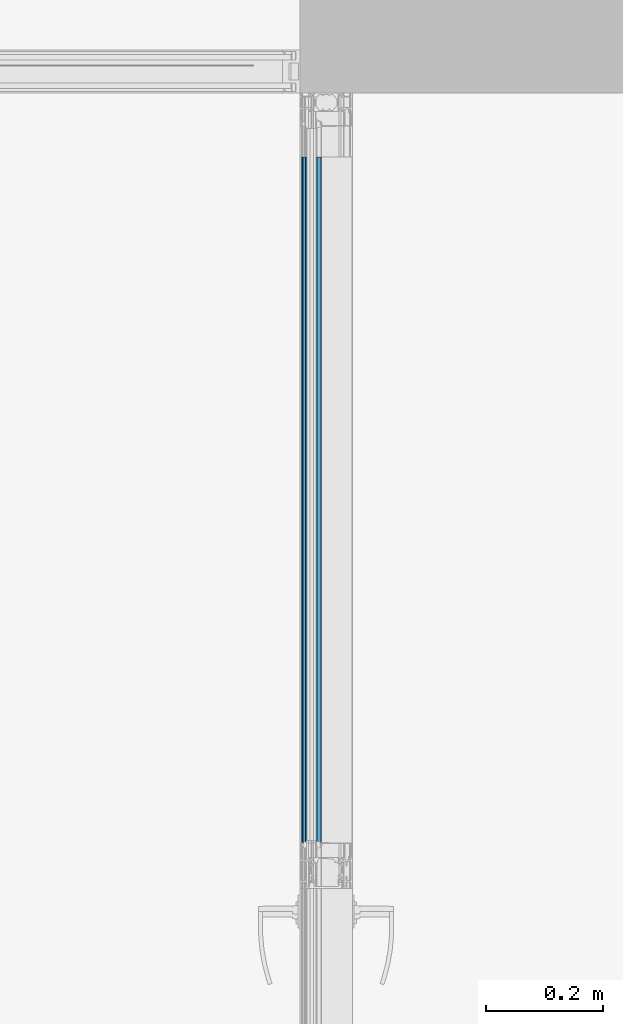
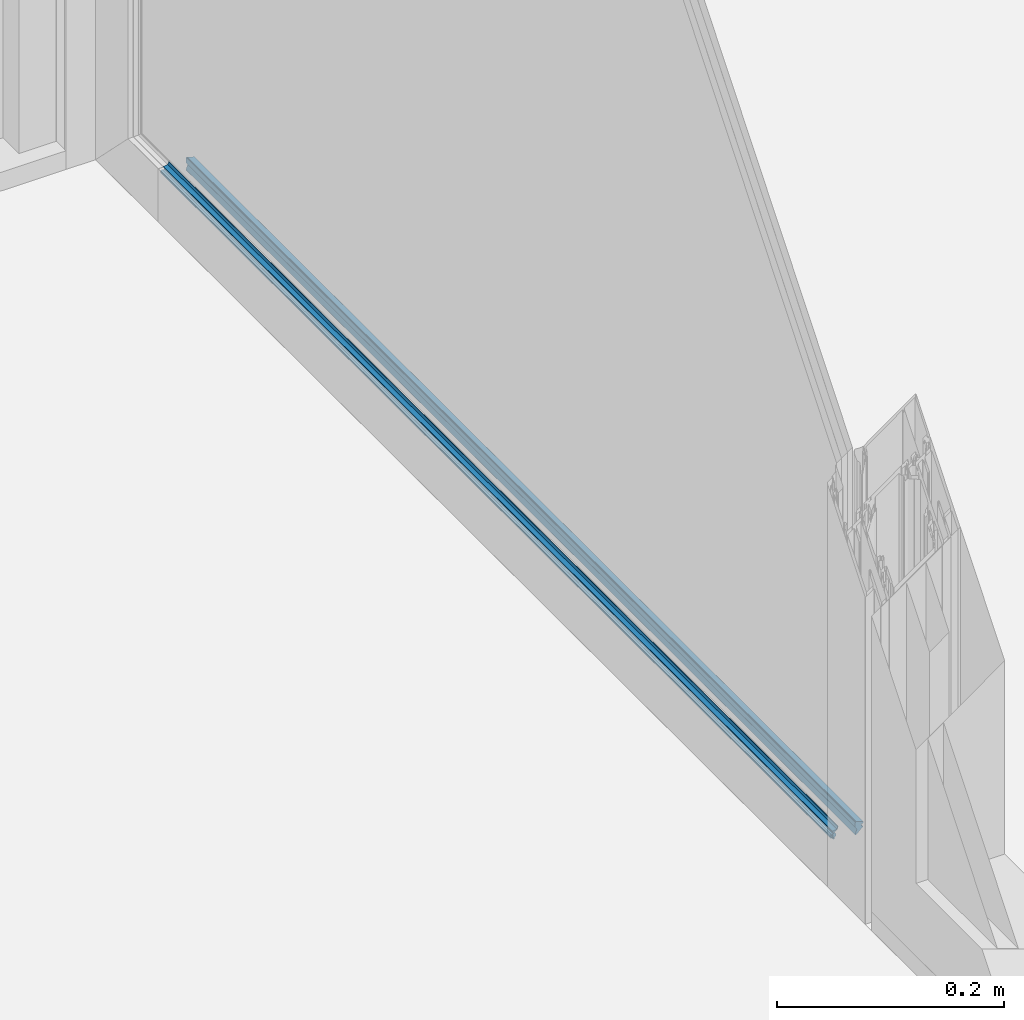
# One storey, part 47 of 62: 1 building element part, 2 elements without a shape of their own.
"""IFC2X3 building model written with IfcOpenShell, lengths in millimetres."""

from ifc_helpers import new_model, entity, si_unit, converted_unit, derived_unit, money_unit, direction, frame, origin_with_axes, place, context, subcontext, project, spatial, faceted_brep, material, type_object, element, aggregate, save


model = new_model("IFC2X3")

# Units and contexts
model_context = context("Model", 3, precision=0.01, world=origin_with_axes(), true_north=direction((0.0, 1.0)))
body_context = subcontext(model_context, "Body", "Model", "MODEL_VIEW")
ifc_project = project(units=[si_unit("LENGTHUNIT", "METRE", prefix="MILLI"), si_unit("AREAUNIT", "SQUARE_METRE"), si_unit("VOLUMEUNIT", "CUBIC_METRE"), converted_unit("PLANEANGLEUNIT", "DEGREE", entity("IfcPlaneAngleMeasure", 0.0174532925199), si_unit("PLANEANGLEUNIT", "RADIAN"), dimensions=[0, 0, 0, 0, 0, 0, 0]), si_unit("SOLIDANGLEUNIT", "STERADIAN"), money_unit("EUR"), converted_unit("TIMEUNIT", "Year", entity("IfcTimeMeasure", 31556926.0), si_unit("TIMEUNIT", "SECOND"), dimensions=[0, 0, 1, 0, 0, 0, 0]), si_unit("MASSUNIT", "GRAM", prefix="KILO"), si_unit("THERMODYNAMICTEMPERATUREUNIT", "DEGREE_CELSIUS"), si_unit("LUMINOUSINTENSITYUNIT", "LUMEN"), si_unit("ENERGYUNIT", "JOULE", prefix="MEGA"), derived_unit("THERMALCONDUCTANCEUNIT", [(si_unit("POWERUNIT", "WATT"), 1), (si_unit("LENGTHUNIT", "METRE"), -1), (si_unit("THERMODYNAMICTEMPERATUREUNIT", "KELVIN"), -1)]), derived_unit("SPECIFICHEATCAPACITYUNIT", [(si_unit("ENERGYUNIT", "JOULE"), 1), (si_unit("MASSUNIT", "GRAM", prefix="KILO"), -1), (si_unit("THERMODYNAMICTEMPERATUREUNIT", "KELVIN"), -1)]), derived_unit("MASSDENSITYUNIT", [(si_unit("MASSUNIT", "GRAM", prefix="KILO"), 1), (si_unit("VOLUMEUNIT", "CUBIC_METRE"), -1)])], contexts=[model_context])

# Site, building, storey
site_placement = place(None, origin_with_axes())
site = spatial("IfcSite", under=ifc_project, at=site_placement, Name="Puškini 31, Narva", CompositionType="ELEMENT")
building_placement = place(site_placement, origin_with_axes())
building = spatial("IfcBuilding", under=site, at=building_placement, Name="Narva Riigigümnaasium", CompositionType="ELEMENT")
storey_placement = place(building_placement, frame((0.0, 0.0, 660.0), z_axis=(0.0, 0.0, 1.0), x_axis=(1.0, 0.0, 0.0)))
storey = spatial("IfcBuildingStorey", under=building, at=storey_placement, Name="2.korrus +0.66", CompositionType="ELEMENT", Elevation=660.0)

# Curtain wall, member, building element part
curtain_wall_type = type_object("IfcCurtainWallType", Name="Curtain Wall Type", PredefinedType="NOTDEFINED")
curtain_wall_placement = place(storey_placement, frame((47544.998162, 221675.502168, -2.45869393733e-05), z_axis=(0.0, 0.0, 1.0), x_axis=(1.0, 0.0, 0.0)))
curtain_wall = element("IfcCurtainWall", 1, at=curtain_wall_placement, inside=storey, type_object=curtain_wall_type, Name="G-SKLF-51")
member_type = type_object("IfcMemberType", Name="61 x 45", PredefinedType="MULLION")
member_placement = place(curtain_wall_placement, frame((-0.00863927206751, 2014.50219759, 0.0), z_axis=(4.28853940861e-06, -0.999999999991, 0.0), x_axis=(0.0, 0.0, 1.0)))
member = element("IfcMember", 2, at=member_placement, type_object=member_type, Name="G-SKLF-51-raam", ObjectType="MULLION")
aggregate(curtain_wall, [member])
ifc_material = material(Name="Membraan - Veekindel")
building_element_part_placement = place(member_placement, origin_with_axes())
building_element_part = element("IfcBuildingElementPart", 3, at=building_element_part_placement, material=ifc_material, Name="Membraan - Veekindel", context=body_context, shape_type="Brep", body=[
    faceted_brep([(61.0413385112, 34.3890442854, 0.0), (59.5800222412, 34.73794757, 0.0), (59.5800222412, 34.73794757, 1177.0), (61.0413385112, 34.3890442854, 1177.0), (61.1536677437, 34.1934467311, 0.0), (61.1423164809, 33.9681748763, 0.0), (61.0108941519, 33.784859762, 0.0), (60.7381535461, 33.9217644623, 0.0), (59.8409257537, 34.1343131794, 0.0), (58.2346494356, 34.5489145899, 0.0), (56.9567944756, 35.6067920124, 0.0), (56.2495873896, 37.1074172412, 0.0), (56.1542959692, 37.3107917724, 0.0), (55.9795989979, 37.4519392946, 0.0), (55.7607444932, 37.5023809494, 0.0), (55.1093263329, 37.5023809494, 0.0), (54.8593263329, 37.4353936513, 0.0), (54.676313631, 37.2523809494, 0.0), (54.2721684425, 36.5523809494, 0.0), (54.0891557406, 36.3693682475, 0.0), (53.8391557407, 36.3023809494, 0.0), (51.602145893, 36.3023809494, 0.0), (51.352145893, 36.3693682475, 0.0), (51.1691331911, 36.5523809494, 0.0), (50.7649880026, 37.2523809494, 0.0), (50.5819753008, 37.4353936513, 0.0), (50.3319753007, 37.5023809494, 0.0), (49.2206527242, 37.5023809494, 0.0), (48.9706527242, 37.5693682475, 0.0), (48.7876400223, 37.7523809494, 0.0), (48.7206527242, 38.0023809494, 0.0), (48.7206527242, 39.1999494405, 0.0), (50.10004, 39.1999494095, 0.0), (50.1670287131, 38.9499497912, 0.0), (50.3500424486, 38.7669381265, 0.0), (50.6000428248, 38.699952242, 0.0), (50.8500424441, 38.7669409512, 0.0), (51.0330541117, 38.9499546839, 0.0), (51.10004, 39.1999550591, 0.0), (51.10004, 40.4999366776, 0.0), (51.0598476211, 40.6499366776, 0.0), (50.95004, 40.7597442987, 0.0), (50.80004, 40.7999366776, 0.0), (50.7000457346, 40.7999366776, 0.0), (50.5334025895, 40.8504763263, 0.0), (50.4229059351, 40.9850671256, 0.0), (50.4057850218, 41.1583618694, 0.0), (50.4878083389, 41.3119729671, 0.0), (51.5281601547, 42.3533311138, 0.0), (51.6904310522, 42.4618421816, 0.0), (51.8818844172, 42.4999486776, 0.0), (53.517932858, 42.4999486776, 0.0), (53.7093558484, 42.4618547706, 0.0), (53.8716106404, 42.3533776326, 0.0), (54.9122350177, 41.3120206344, 0.0), (54.9942836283, 41.1584047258, 0.0), (54.9771753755, 40.9850924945, 0.0), (54.866675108, 40.850483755, 0.0), (54.7000173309, 40.7999366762, 0.0), (54.6000210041, 40.7999366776, 0.0), (54.4500210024, 40.7597443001, 0.0), (54.3402133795, 40.6499366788, 0.0), (54.300021, 40.4999366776, 0.0), (54.300021, 39.1999606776, 0.0), (54.3670082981, 38.9499606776, 0.0), (54.5500210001, 38.7669479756, 0.0), (54.8000210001, 38.6999606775, 0.0), (55.0500210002, 38.7669479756, 0.0), (55.2330337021, 38.9499606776, 0.0), (55.3000210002, 39.1999606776, 0.0), (57.3000022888, 39.1999494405, 0.0), (57.3000022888, 39.9999846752, 0.0), (57.5000161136, 39.946391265, 0.0), (57.6464370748, 39.799971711, 0.0), (57.7000324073, 39.5999584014, 0.0), (57.9693613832, 36.5265882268, 0.0), (58.4755028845, 35.3628499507, 0.0), (53.5000340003, 40.7999553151, 0.0), (53.4330491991, 41.0499459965, 0.0), (53.2500433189, 41.2329518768, 0.0), (53.0000526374, 41.299936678, 0.0), (52.4000083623, 41.299936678, 0.0), (52.150017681, 41.2329518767, 0.0), (51.9670118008, 41.0499459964, 0.0), (51.9000269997, 40.799955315, 0.0), (51.9000269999, 39.6999268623, 0.0), (51.9670129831, 39.4499317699, 0.0), (52.1500220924, 39.2669226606, 0.0), (52.4000171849, 39.1999366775, 0.0), (53.0000438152, 39.1999366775, 0.0), (53.2500389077, 39.2669226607, 0.0), (53.433048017, 39.44993177, 0.0), (58.4755028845, 35.3628499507, 1177.0), (57.9693613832, 36.5265882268, 1177.0), (57.7000324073, 39.5999584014, 1177.0), (57.6464370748, 39.799971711, 1177.0), (57.5000161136, 39.946391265, 1177.0), (57.3000022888, 39.9999846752, 1177.0), (57.3000022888, 39.1999494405, 1177.0), (55.3000210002, 39.1999606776, 1177.0), (55.2330337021, 38.9499606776, 1177.0), (55.0500210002, 38.7669479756, 1177.0), (54.8000210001, 38.6999606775, 1177.0), (54.5500210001, 38.7669479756, 1177.0), (54.3670082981, 38.9499606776, 1177.0), (54.300021, 39.1999606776, 1177.0), (54.300021, 40.4999366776, 1177.0), (54.3402133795, 40.6499366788, 1177.0), (54.4500210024, 40.7597443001, 1177.0), (54.6000210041, 40.7999366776, 1177.0), (54.7000173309, 40.7999366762, 1177.0), (54.866675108, 40.850483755, 1177.0), (54.9771753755, 40.9850924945, 1177.0), (54.9942836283, 41.1584047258, 1177.0), (54.9122350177, 41.3120206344, 1177.0), (53.8716106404, 42.3533776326, 1177.0), (53.7093558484, 42.4618547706, 1177.0), (53.517932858, 42.4999486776, 1177.0), (51.8818844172, 42.4999486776, 1177.0), (51.6904310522, 42.4618421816, 1177.0), (51.5281601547, 42.3533311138, 1177.0), (50.4878083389, 41.3119729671, 1177.0), (50.4057850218, 41.1583618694, 1177.0), (50.4229059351, 40.9850671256, 1177.0), (50.5334025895, 40.8504763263, 1177.0), (50.7000457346, 40.7999366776, 1177.0), (50.80004, 40.7999366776, 1177.0), (50.95004, 40.7597442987, 1177.0), (51.0598476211, 40.6499366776, 1177.0), (51.10004, 40.4999366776, 1177.0), (51.10004, 39.1999550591, 1177.0), (51.0330541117, 38.9499546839, 1177.0), (50.8500424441, 38.7669409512, 1177.0), (50.6000428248, 38.699952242, 1177.0), (50.3500424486, 38.7669381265, 1177.0), (50.1670287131, 38.9499497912, 1177.0), (50.10004, 39.1999494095, 1177.0), (48.7206527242, 39.1999494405, 1177.0), (48.7206527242, 38.0023809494, 1177.0), (48.7876400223, 37.7523809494, 1177.0), (48.9706527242, 37.5693682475, 1177.0), (49.2206527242, 37.5023809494, 1177.0), (50.3319753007, 37.5023809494, 1177.0), (50.5819753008, 37.4353936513, 1177.0), (50.7649880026, 37.2523809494, 1177.0), (51.1691331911, 36.5523809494, 1177.0), (51.352145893, 36.3693682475, 1177.0), (51.602145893, 36.3023809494, 1177.0), (53.8391557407, 36.3023809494, 1177.0), (54.0891557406, 36.3693682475, 1177.0), (54.2721684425, 36.5523809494, 1177.0), (54.676313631, 37.2523809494, 1177.0), (54.8593263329, 37.4353936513, 1177.0), (55.1093263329, 37.5023809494, 1177.0), (55.7607444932, 37.5023809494, 1177.0), (55.9795989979, 37.4519392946, 1177.0), (56.1542959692, 37.3107917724, 1177.0), (56.2495873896, 37.1074172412, 1177.0), (56.9567944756, 35.6067920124, 1177.0), (58.2346494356, 34.5489145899, 1177.0), (59.8409257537, 34.1343131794, 1177.0), (60.7381535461, 33.9217644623, 1177.0), (61.0108941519, 33.784859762, 1177.0), (61.1423164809, 33.9681748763, 1177.0), (61.1536677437, 34.1934467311, 1177.0), (53.5000340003, 40.7999553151, 1177.0), (53.433048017, 39.44993177, 1177.0), (53.2500389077, 39.2669226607, 1177.0), (53.0000438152, 39.1999366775, 1177.0), (52.4000171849, 39.1999366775, 1177.0), (52.1500220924, 39.2669226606, 1177.0), (51.9670129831, 39.4499317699, 1177.0), (51.9000269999, 39.6999268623, 1177.0), (51.9000269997, 40.799955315, 1177.0), (51.9670118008, 41.0499459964, 1177.0), (52.150017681, 41.2329518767, 1177.0), (52.4000083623, 41.299936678, 1177.0), (53.0000526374, 41.299936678, 1177.0), (53.2500433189, 41.2329518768, 1177.0), (53.4330491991, 41.0499459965, 1177.0)], [[[0, 1, 2, 3]], [[0, 4, 5, 6, 7, 8, 9, 10, 11, 12, 13, 14, 15, 16, 17, 18, 19, 20, 21, 22, 23, 24, 25, 26, 27, 28, 29, 30, 31, 32, 33, 34, 35, 36, 37, 38, 39, 40, 41, 42, 43, 44, 45, 46, 47, 48, 49, 50, 51, 52, 53, 54, 55, 56, 57, 58, 59, 60, 61, 62, 63, 64, 65, 66, 67, 68, 69, 70, 71, 72, 73, 74, 75, 76, 1], [77, 78, 79, 80, 81, 82, 83, 84, 85, 86, 87, 88, 89, 90, 91]], [[1, 76, 92, 2]], [[3, 2, 92, 93, 94, 95, 96, 97, 98, 99, 100, 101, 102, 103, 104, 105, 106, 107, 108, 109, 110, 111, 112, 113, 114, 115, 116, 117, 118, 119, 120, 121, 122, 123, 124, 125, 126, 127, 128, 129, 130, 131, 132, 133, 134, 135, 136, 137, 138, 139, 140, 141, 142, 143, 144, 145, 146, 147, 148, 149, 150, 151, 152, 153, 154, 155, 156, 157, 158, 159, 160, 161, 162, 163, 164], [165, 166, 167, 168, 169, 170, 171, 172, 173, 174, 175, 176, 177, 178, 179]], [[4, 0, 3, 164]], [[5, 4, 164, 163]], [[6, 5, 163, 162]], [[7, 6, 162, 161]], [[8, 7, 161, 160]], [[9, 8, 160, 159]], [[10, 9, 159, 158]], [[11, 10, 158, 157]], [[12, 11, 157, 156]], [[13, 12, 156, 155]], [[14, 13, 155, 154]], [[15, 14, 154, 153]], [[16, 15, 153, 152]], [[17, 16, 152, 151]], [[18, 17, 151, 150]], [[19, 18, 150, 149]], [[20, 19, 149, 148]], [[21, 20, 148, 147]], [[22, 21, 147, 146]], [[23, 22, 146, 145]], [[24, 23, 145, 144]], [[25, 24, 144, 143]], [[26, 25, 143, 142]], [[27, 26, 142, 141]], [[28, 27, 141, 140]], [[29, 28, 140, 139]], [[30, 29, 139, 138]], [[31, 30, 138, 137]], [[32, 31, 137, 136]], [[33, 32, 136, 135]], [[34, 33, 135, 134]], [[35, 34, 134, 133]], [[36, 35, 133, 132]], [[37, 36, 132, 131]], [[38, 37, 131, 130]], [[39, 38, 130, 129]], [[40, 39, 129, 128]], [[41, 40, 128, 127]], [[42, 41, 127, 126]], [[43, 42, 126, 125]], [[44, 43, 125, 124]], [[45, 44, 124, 123]], [[46, 45, 123, 122]], [[47, 46, 122, 121]], [[48, 47, 121, 120]], [[49, 48, 120, 119]], [[50, 49, 119, 118]], [[51, 50, 118, 117]], [[52, 51, 117, 116]], [[53, 52, 116, 115]], [[54, 53, 115, 114]], [[55, 54, 114, 113]], [[56, 55, 113, 112]], [[57, 56, 112, 111]], [[58, 57, 111, 110]], [[59, 58, 110, 109]], [[60, 59, 109, 108]], [[61, 60, 108, 107]], [[62, 61, 107, 106]], [[63, 62, 106, 105]], [[64, 63, 105, 104]], [[65, 64, 104, 103]], [[66, 65, 103, 102]], [[67, 66, 102, 101]], [[68, 67, 101, 100]], [[69, 68, 100, 99]], [[70, 69, 99, 98]], [[71, 70, 98, 97]], [[72, 71, 97, 96]], [[73, 72, 96, 95]], [[74, 73, 95, 94]], [[75, 74, 94, 93]], [[76, 75, 93, 92]], [[78, 77, 165, 179]], [[79, 78, 179, 178]], [[80, 79, 178, 177]], [[81, 80, 177, 176]], [[82, 81, 176, 175]], [[83, 82, 175, 174]], [[84, 83, 174, 173]], [[85, 84, 173, 172]], [[86, 85, 172, 171]], [[87, 86, 171, 170]], [[88, 87, 170, 169]], [[89, 88, 169, 168]], [[90, 89, 168, 167]], [[91, 90, 167, 166]], [[77, 91, 166, 165]]]),
    faceted_brep([(59.0307115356, 16.554149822, 0.0), (55.9926715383, 16.8063498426, 0.0), (55.9926715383, 16.8063498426, 1177.0), (59.0307115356, 16.554149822, 1177.0), (59.3884652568, 16.1092618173, 0.0), (59.5001582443, 15.5494067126, 0.0), (59.3405112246, 15.0012955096, 0.0), (57.5418652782, 10.0035930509, 0.0), (57.2632233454, 8.46932121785, 0.0), (57.1824204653, 8.36745448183, 0.0), (57.0661058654, 8.3093438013, 0.0), (56.9361285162, 8.30590490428, 0.0), (55.5361285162, 8.57803733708, 0.0), (55.4168250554, 8.62997353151, 0.0), (55.3307332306, 8.72753828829, 0.0), (55.2940485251, 8.85237785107, 0.0), (55.4099827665, 9.81272116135, 0.0), (55.3838261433, 9.9780831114, 0.0), (55.2731258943, 10.1036784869, 0.0), (55.1123574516, 10.1503930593, 0.0), (53.0580290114, 10.1503930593, 0.0), (52.8859560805, 10.0961386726, 0.0), (52.7761212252, 9.95299910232, 0.0), (52.3556584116, 8.79778701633, 0.0), (52.2574645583, 8.66326410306, 0.0), (52.1026310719, 8.60190419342, 0.0), (51.938943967, 8.6326446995, 0.0), (51.8169217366, 8.74599822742, 0.0), (45.6142070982, 15.4144760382, 0.0), (45.3418968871, 15.7688623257, 0.0), (45.3195226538, 16.2152275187, 0.0), (45.3889077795, 16.3899097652, 0.0), (45.6241929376, 16.6482027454, 0.0), (45.950966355, 16.7718696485, 0.0), (46.298307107, 16.7340705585, 0.0), (50.5536994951, 15.2121179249, 0.0), (50.8437237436, 15.0307134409, 0.0), (51.0558924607, 14.9074036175, 0.0), (51.3011765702, 14.8998814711, 0.0), (51.5205025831, 15.0099586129, 0.0), (53.1225200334, 16.3483062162, 0.0), (53.7899070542, 16.6230039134, 0.0), (53.7899070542, 16.6230039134, 1177.0), (53.1225200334, 16.3483062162, 1177.0), (51.5205025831, 15.0099586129, 1177.0), (51.3011765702, 14.8998814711, 1177.0), (51.0558924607, 14.9074036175, 1177.0), (50.8437237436, 15.0307134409, 1177.0), (50.5536994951, 15.2121179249, 1177.0), (46.298307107, 16.7340705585, 1177.0), (45.950966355, 16.7718696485, 1177.0), (45.6241929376, 16.6482027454, 1177.0), (45.3889077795, 16.3899097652, 1177.0), (45.3195226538, 16.2152275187, 1177.0), (45.3418968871, 15.7688623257, 1177.0), (45.6142070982, 15.4144760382, 1177.0), (51.8169217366, 8.74599822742, 1177.0), (51.938943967, 8.6326446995, 1177.0), (52.1026310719, 8.60190419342, 1177.0), (52.2574645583, 8.66326410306, 1177.0), (52.3556584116, 8.79778701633, 1177.0), (52.7761212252, 9.95299910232, 1177.0), (52.8859560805, 10.0961386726, 1177.0), (53.0580290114, 10.1503930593, 1177.0), (55.1123574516, 10.1503930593, 1177.0), (55.2731258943, 10.1036784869, 1177.0), (55.3838261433, 9.9780831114, 1177.0), (55.4099827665, 9.81272116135, 1177.0), (55.2940485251, 8.85237785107, 1177.0), (55.3307332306, 8.72753828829, 1177.0), (55.4168250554, 8.62997353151, 1177.0), (55.5361285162, 8.57803733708, 1177.0), (56.9361285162, 8.30590490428, 1177.0), (57.0661058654, 8.3093438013, 1177.0), (57.1824204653, 8.36745448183, 1177.0), (57.2632233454, 8.46932121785, 1177.0), (57.5418652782, 10.0035930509, 1177.0), (59.3405112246, 15.0012955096, 1177.0), (59.5001582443, 15.5494067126, 1177.0), (59.3884652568, 16.1092618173, 1177.0)], [[[0, 1, 2, 3]], [[0, 4, 5, 6, 7, 8, 9, 10, 11, 12, 13, 14, 15, 16, 17, 18, 19, 20, 21, 22, 23, 24, 25, 26, 27, 28, 29, 30, 31, 32, 33, 34, 35, 36, 37, 38, 39, 40, 41, 1]], [[1, 41, 42, 2]], [[3, 2, 42, 43, 44, 45, 46, 47, 48, 49, 50, 51, 52, 53, 54, 55, 56, 57, 58, 59, 60, 61, 62, 63, 64, 65, 66, 67, 68, 69, 70, 71, 72, 73, 74, 75, 76, 77, 78, 79]], [[4, 0, 3, 79]], [[5, 4, 79, 78]], [[6, 5, 78, 77]], [[7, 6, 77, 76]], [[8, 7, 76, 75]], [[9, 8, 75, 74]], [[10, 9, 74, 73]], [[11, 10, 73, 72]], [[12, 11, 72, 71]], [[13, 12, 71, 70]], [[14, 13, 70, 69]], [[15, 14, 69, 68]], [[16, 15, 68, 67]], [[17, 16, 67, 66]], [[18, 17, 66, 65]], [[19, 18, 65, 64]], [[20, 19, 64, 63]], [[21, 20, 63, 62]], [[22, 21, 62, 61]], [[23, 22, 61, 60]], [[24, 23, 60, 59]], [[25, 24, 59, 58]], [[26, 25, 58, 57]], [[27, 26, 57, 56]], [[28, 27, 56, 55]], [[29, 28, 55, 54]], [[30, 29, 54, 53]], [[31, 30, 53, 52]], [[32, 31, 52, 51]], [[33, 32, 51, 50]], [[34, 33, 50, 49]], [[35, 34, 49, 48]], [[36, 35, 48, 47]], [[37, 36, 47, 46]], [[38, 37, 46, 45]], [[39, 38, 45, 44]], [[40, 39, 44, 43]], [[41, 40, 43, 42]]]),
])
aggregate(member, [building_element_part])

save(model, "model.ifc")
